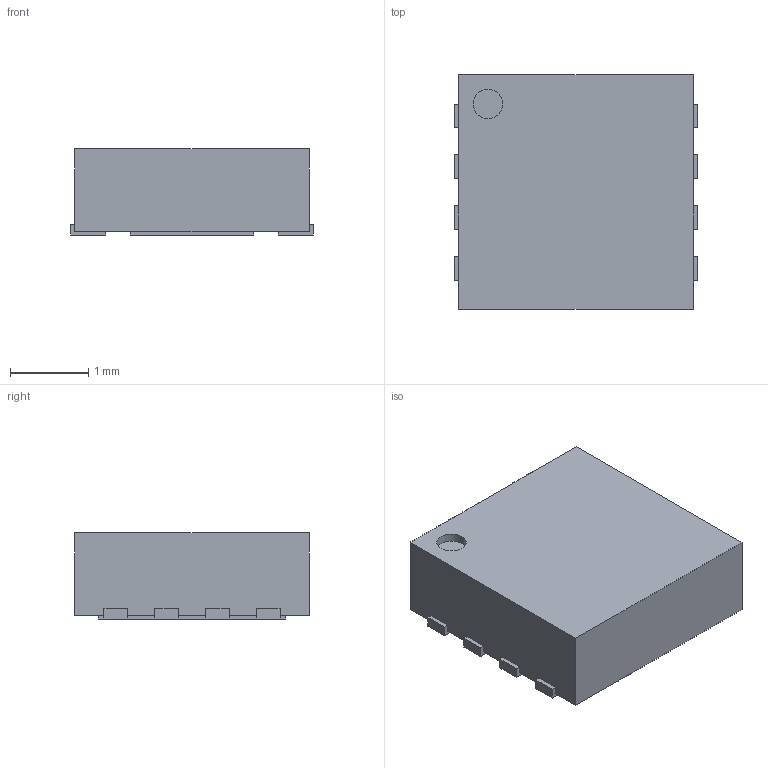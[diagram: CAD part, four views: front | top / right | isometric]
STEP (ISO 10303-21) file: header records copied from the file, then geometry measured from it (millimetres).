
FILE_DESCRIPTION(('FreeCAD Model'),'2;1');
FILE_NAME('/var/www/3D/0T/13003097.1.1.stp','2020-10-01T07:00:23',( 'Author'),(''),'Open CASCADE STEP processor 6.9','FreeCAD','Unknown' );
FILE_SCHEMA(('AUTOMOTIVE_DESIGN { 1 0 10303 214 1 1 1 1 }'));
Length unit declared in the file: millimetre
Products named in the file (4): ASSEMBLY; Body; ThermalPin; PinsArrayLR
Assembly tree (3 placements, depth 2):
  ASSEMBLY
    Body
    ThermalPin
    PinsArrayLR
Bounding box: 3.1 x 3 x 1.1 mm (x, y, z)
Volume: 10.1 mm3; surface area: 43.2 mm2
Topology: 10 solids, 10 shells, 62 faces, 123 edges, 82 vertices
Faces by surface type: plane 61, cylinder 1
Full cylindrical faces by diameter (mm): 0.375 x1
Entity records: 3309 total; most frequent: CARTESIAN_POINT 517, DIRECTION 503, LINE 365, VECTOR 365, ORIENTED_EDGE 246, PCURVE 246, DEFINITIONAL_REPRESENTATION 246, EDGE_CURVE 123
